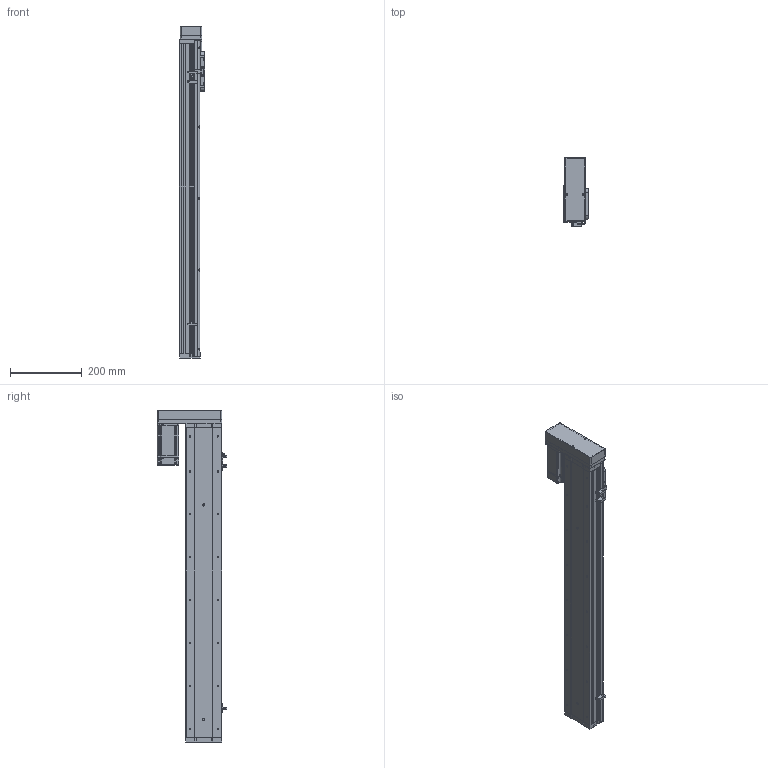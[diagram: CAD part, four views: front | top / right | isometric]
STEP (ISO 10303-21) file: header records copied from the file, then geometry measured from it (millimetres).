
FILE_DESCRIPTION (( 'STEP AP214' ), '1' );
FILE_NAME ('KSD100S-S700-ML-CR.STEP', '2019-09-02T08:20:03', ( '微软用户' ), ( '微软中国' ), 'SwSTEP 2.0', 'SolidWorks 2014', '' );
FILE_SCHEMA (( 'AUTOMOTIVE_DESIGN' ));
Length unit declared in the file: millimetre
Products named in the file (14): U倰嫖萇EEㄜSX672; 感应片100宽全封闭; 100宽马达安装板全封闭; 100宽端板全封闭; 100宽滚珠螺姆安装板1防护罩; 100宽滚珠螺姆安装板1; 100遵裔啣揤啣; 100遵裔啣700俴最; 100遵耜啣700俴最佪裝; 100宽底板全封闭700行程丝杆; KSD100S-S700-ML-CR; MHMD042G1CA_2_03; 悵誘欶酘衵殏; 100宽马达安装板连板左右折丝杆
Assembly tree (17 placements, depth 2):
  KSD100S-S700-ML-CR
    100宽底板全封闭700行程丝杆
    100遵耜啣700俴最佪裝  x2
    100遵裔啣700俴最
    100遵裔啣揤啣  x2
    100宽滚珠螺姆安装板1
    100宽滚珠螺姆安装板1防护罩
    100宽端板全封闭
    100宽马达安装板全封闭
    感应片100宽全封闭
    U倰嫖萇EEㄜSX672  x3
    100宽马达安装板连板左右折丝杆
    悵誘欶酘衵殏
    MHMD042G1CA_2_03
Bounding box: 70 x 193.7 x 928.5 mm (x, y, z)
Volume: 1895690.9 mm3; surface area: 857798 mm2
Topology: 16 solids, 17 shells, 1677 faces, 4678 edges, 2980 vertices
Faces by surface type: cylinder 723, plane 699, cone 237, bspline 18
Entity records: 56116 total; most frequent: CARTESIAN_POINT 8816, DIRECTION 8003, ORIENTED_EDGE 7396, EDGE_CURVE 3770, AXIS2_PLACEMENT_3D 2867, VERTEX_POINT 2498, LINE 2269, VECTOR 2269
